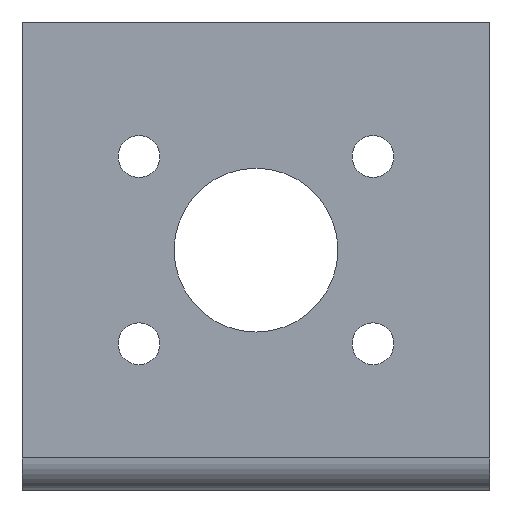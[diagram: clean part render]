
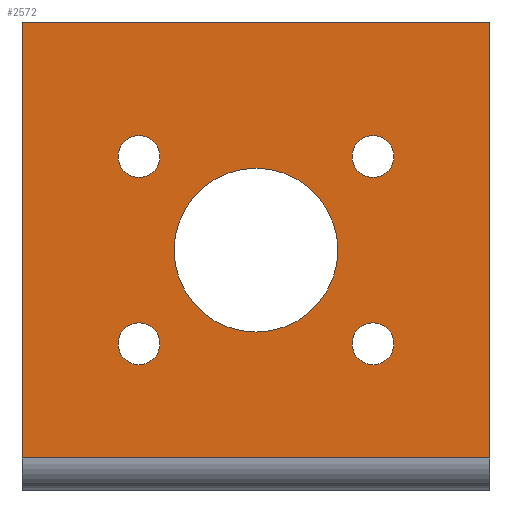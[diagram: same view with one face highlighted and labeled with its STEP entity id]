
A CAD part, front view. The second image highlights one B-rep face of the part: STEP entity #2572.
In plain terms, the highlighted planar face has unit normal (0, -1, 0).
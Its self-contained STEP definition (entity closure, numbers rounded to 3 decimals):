
#2 = DIRECTION ( 'NONE',  ( 1., 0., 0. ) ) ;
#17 = CARTESIAN_POINT ( 'NONE',  ( 10., 35.999, 10.501 ) ) ;
#36 = LINE ( 'NONE', #912, #1492 ) ;
#79 = ORIENTED_EDGE ( 'NONE', *, *, #2986, .F. ) ;
#117 = CARTESIAN_POINT ( 'NONE',  ( 20., 35.999, 18.501 ) ) ;
#123 = EDGE_CURVE ( 'NONE', #2737, #783, #2710, .T. ) ;
#174 = DIRECTION ( 'NONE',  ( 1., 0., 0. ) ) ;
#226 = CARTESIAN_POINT ( 'NONE',  ( 30., 35.999, 10.501 ) ) ;
#231 = FACE_OUTER_BOUND ( 'NONE', #1547, .T. ) ;
#267 = VERTEX_POINT ( 'NONE', #1032 ) ;
#320 = AXIS2_PLACEMENT_3D ( 'NONE', #117, #2817, #635 ) ;
#352 = CIRCLE ( 'NONE', #885, 1.79 ) ;
#356 = EDGE_LOOP ( 'NONE', ( #2172, #3072 ) ) ;
#365 = DIRECTION ( 'NONE',  ( 0., 1., 0. ) ) ;
#377 = LINE ( 'NONE', #2331, #2406 ) ;
#398 = DIRECTION ( 'NONE',  ( 0., 1., 0. ) ) ;
#406 = EDGE_CURVE ( 'NONE', #2322, #1561, #831, .T. ) ;
#419 = CARTESIAN_POINT ( 'NONE',  ( 0., 35.999, 38.001 ) ) ;
#423 = ORIENTED_EDGE ( 'NONE', *, *, #2438, .T. ) ;
#433 = AXIS2_PLACEMENT_3D ( 'NONE', #2328, #1620, #879 ) ;
#445 = CARTESIAN_POINT ( 'NONE',  ( 40., 35.999, 0.737 ) ) ;
#489 = CIRCLE ( 'NONE', #542, 1.79 ) ;
#510 = DIRECTION ( 'NONE',  ( 1., 0., 0. ) ) ;
#537 = CIRCLE ( 'NONE', #1835, 1.79 ) ;
#542 = AXIS2_PLACEMENT_3D ( 'NONE', #226, #2195, #1198 ) ;
#556 = VERTEX_POINT ( 'NONE', #657 ) ;
#582 = CARTESIAN_POINT ( 'NONE',  ( 30., 35.999, 10.501 ) ) ;
#621 = CARTESIAN_POINT ( 'NONE',  ( 11.79, 35.999, 26.501 ) ) ;
#627 = EDGE_CURVE ( 'NONE', #2207, #556, #489, .T. ) ;
#633 = CIRCLE ( 'NONE', #1159, 1.79 ) ;
#635 = DIRECTION ( 'NONE',  ( 1., 0., 0. ) ) ;
#649 = ORIENTED_EDGE ( 'NONE', *, *, #1904, .T. ) ;
#657 = CARTESIAN_POINT ( 'NONE',  ( 31.79, 35.999, 10.501 ) ) ;
#665 = ORIENTED_EDGE ( 'NONE', *, *, #729, .T. ) ;
#668 = AXIS2_PLACEMENT_3D ( 'NONE', #17, #1735, #510 ) ;
#710 = DIRECTION ( 'NONE',  ( 0., -1., 0. ) ) ;
#719 = ORIENTED_EDGE ( 'NONE', *, *, #2006, .F. ) ;
#729 = EDGE_CURVE ( 'NONE', #2781, #1465, #2472, .T. ) ;
#760 = EDGE_LOOP ( 'NONE', ( #2067, #1976 ) ) ;
#783 = VERTEX_POINT ( 'NONE', #2137 ) ;
#795 = VECTOR ( 'NONE', #821, 1000. ) ;
#821 = DIRECTION ( 'NONE',  ( 1., 0., 0. ) ) ;
#831 = CIRCLE ( 'NONE', #320, 7. ) ;
#840 = DIRECTION ( 'NONE',  ( 0., 0., -1. ) ) ;
#852 = VERTEX_POINT ( 'NONE', #2888 ) ;
#863 = EDGE_LOOP ( 'NONE', ( #1808, #649 ) ) ;
#879 = DIRECTION ( 'NONE',  ( 1., 0., 0. ) ) ;
#885 = AXIS2_PLACEMENT_3D ( 'NONE', #582, #365, #2306 ) ;
#912 = CARTESIAN_POINT ( 'NONE',  ( 0., 35.999, 0.737 ) ) ;
#933 = CARTESIAN_POINT ( 'NONE',  ( 8.21, 35.999, 26.501 ) ) ;
#1026 = VECTOR ( 'NONE', #2130, 1000. ) ;
#1032 = CARTESIAN_POINT ( 'NONE',  ( 8.21, 35.999, 10.501 ) ) ;
#1044 = AXIS2_PLACEMENT_3D ( 'NONE', #2949, #710, #2675 ) ;
#1054 = DIRECTION ( 'NONE',  ( 0., 1., 0. ) ) ;
#1069 = CARTESIAN_POINT ( 'NONE',  ( 0., 35.999, 38.001 ) ) ;
#1147 = VERTEX_POINT ( 'NONE', #2707 ) ;
#1159 = AXIS2_PLACEMENT_3D ( 'NONE', #1350, #1807, #2770 ) ;
#1198 = DIRECTION ( 'NONE',  ( 1., 0., 0. ) ) ;
#1220 = PLANE ( 'NONE',  #1044 ) ;
#1306 = CIRCLE ( 'NONE', #1780, 7. ) ;
#1331 = EDGE_CURVE ( 'NONE', #1943, #2212, #1666, .T. ) ;
#1350 = CARTESIAN_POINT ( 'NONE',  ( 10., 35.999, 10.501 ) ) ;
#1385 = ORIENTED_EDGE ( 'NONE', *, *, #123, .F. ) ;
#1444 = CIRCLE ( 'NONE', #1676, 1.79 ) ;
#1465 = VERTEX_POINT ( 'NONE', #3061 ) ;
#1492 = VECTOR ( 'NONE', #174, 1000. ) ;
#1510 = DIRECTION ( 'NONE',  ( 0., 1., 0. ) ) ;
#1539 = CARTESIAN_POINT ( 'NONE',  ( 0., 35.999, 38.001 ) ) ;
#1547 = EDGE_LOOP ( 'NONE', ( #79, #2591, #719, #1385 ) ) ;
#1561 = VERTEX_POINT ( 'NONE', #3125 ) ;
#1581 = EDGE_CURVE ( 'NONE', #2212, #1943, #1444, .T. ) ;
#1609 = FACE_BOUND ( 'NONE', #2706, .T. ) ;
#1620 = DIRECTION ( 'NONE',  ( 0., 1., 0. ) ) ;
#1654 = AXIS2_PLACEMENT_3D ( 'NONE', #1856, #398, #2151 ) ;
#1666 = CIRCLE ( 'NONE', #433, 1.79 ) ;
#1676 = AXIS2_PLACEMENT_3D ( 'NONE', #1726, #1980, #2 ) ;
#1713 = CARTESIAN_POINT ( 'NONE',  ( 27., 35.999, 18.501 ) ) ;
#1722 = EDGE_CURVE ( 'NONE', #1147, #267, #2370, .T. ) ;
#1726 = CARTESIAN_POINT ( 'NONE',  ( 10., 35.999, 26.501 ) ) ;
#1728 = DIRECTION ( 'NONE',  ( 1., 0., 0. ) ) ;
#1735 = DIRECTION ( 'NONE',  ( 0., 1., 0. ) ) ;
#1780 = AXIS2_PLACEMENT_3D ( 'NONE', #2198, #1510, #1728 ) ;
#1807 = DIRECTION ( 'NONE',  ( 0., 1., 0. ) ) ;
#1808 = ORIENTED_EDGE ( 'NONE', *, *, #1722, .T. ) ;
#1835 = AXIS2_PLACEMENT_3D ( 'NONE', #2278, #1054, #2767 ) ;
#1856 = CARTESIAN_POINT ( 'NONE',  ( 30., 35.999, 26.501 ) ) ;
#1898 = ORIENTED_EDGE ( 'NONE', *, *, #2234, .T. ) ;
#1904 = EDGE_CURVE ( 'NONE', #267, #1147, #633, .T. ) ;
#1943 = VERTEX_POINT ( 'NONE', #621 ) ;
#1951 = CARTESIAN_POINT ( 'NONE',  ( 28.21, 35.999, 10.501 ) ) ;
#1976 = ORIENTED_EDGE ( 'NONE', *, *, #627, .T. ) ;
#1980 = DIRECTION ( 'NONE',  ( 0., 1., 0. ) ) ;
#2006 = EDGE_CURVE ( 'NONE', #783, #2140, #377, .T. ) ;
#2067 = ORIENTED_EDGE ( 'NONE', *, *, #2782, .T. ) ;
#2072 = LINE ( 'NONE', #419, #1026 ) ;
#2130 = DIRECTION ( 'NONE',  ( 0., 0., 1. ) ) ;
#2137 = CARTESIAN_POINT ( 'NONE',  ( 40., 35.999, 38.001 ) ) ;
#2140 = VERTEX_POINT ( 'NONE', #445 ) ;
#2151 = DIRECTION ( 'NONE',  ( 1., 0., 0. ) ) ;
#2172 = ORIENTED_EDGE ( 'NONE', *, *, #1331, .T. ) ;
#2195 = DIRECTION ( 'NONE',  ( 0., 1., 0. ) ) ;
#2198 = CARTESIAN_POINT ( 'NONE',  ( 20., 35.999, 18.501 ) ) ;
#2207 = VERTEX_POINT ( 'NONE', #1951 ) ;
#2212 = VERTEX_POINT ( 'NONE', #933 ) ;
#2234 = EDGE_CURVE ( 'NONE', #1561, #2322, #1306, .T. ) ;
#2278 = CARTESIAN_POINT ( 'NONE',  ( 30., 35.999, 26.501 ) ) ;
#2306 = DIRECTION ( 'NONE',  ( 1., 0., 0. ) ) ;
#2322 = VERTEX_POINT ( 'NONE', #1713 ) ;
#2328 = CARTESIAN_POINT ( 'NONE',  ( 10., 35.999, 26.501 ) ) ;
#2331 = CARTESIAN_POINT ( 'NONE',  ( 40., 35.999, 38.001 ) ) ;
#2370 = CIRCLE ( 'NONE', #668, 1.79 ) ;
#2406 = VECTOR ( 'NONE', #840, 1000. ) ;
#2420 = FACE_BOUND ( 'NONE', #2969, .T. ) ;
#2438 = EDGE_CURVE ( 'NONE', #1465, #2781, #537, .T. ) ;
#2472 = CIRCLE ( 'NONE', #1654, 1.79 ) ;
#2572 = ADVANCED_FACE ( 'NONE', ( #2909, #2874, #2420, #1609, #2722, #231 ), #1220, .T. ) ;
#2574 = CARTESIAN_POINT ( 'NONE',  ( 31.79, 35.999, 26.501 ) ) ;
#2591 = ORIENTED_EDGE ( 'NONE', *, *, #3028, .T. ) ;
#2675 = DIRECTION ( 'NONE',  ( -1., 0., 0. ) ) ;
#2706 = EDGE_LOOP ( 'NONE', ( #2850, #1898 ) ) ;
#2707 = CARTESIAN_POINT ( 'NONE',  ( 11.79, 35.999, 10.501 ) ) ;
#2710 = LINE ( 'NONE', #1069, #795 ) ;
#2722 = FACE_BOUND ( 'NONE', #356, .T. ) ;
#2737 = VERTEX_POINT ( 'NONE', #1539 ) ;
#2767 = DIRECTION ( 'NONE',  ( 1., 0., 0. ) ) ;
#2770 = DIRECTION ( 'NONE',  ( 1., 0., 0. ) ) ;
#2781 = VERTEX_POINT ( 'NONE', #2574 ) ;
#2782 = EDGE_CURVE ( 'NONE', #556, #2207, #352, .T. ) ;
#2817 = DIRECTION ( 'NONE',  ( 0., 1., 0. ) ) ;
#2850 = ORIENTED_EDGE ( 'NONE', *, *, #406, .T. ) ;
#2874 = FACE_BOUND ( 'NONE', #760, .T. ) ;
#2888 = CARTESIAN_POINT ( 'NONE',  ( 0., 35.999, 0.737 ) ) ;
#2909 = FACE_BOUND ( 'NONE', #863, .T. ) ;
#2949 = CARTESIAN_POINT ( 'NONE',  ( 0., 35.999, 38.001 ) ) ;
#2969 = EDGE_LOOP ( 'NONE', ( #665, #423 ) ) ;
#2986 = EDGE_CURVE ( 'NONE', #852, #2737, #2072, .T. ) ;
#3028 = EDGE_CURVE ( 'NONE', #852, #2140, #36, .T. ) ;
#3061 = CARTESIAN_POINT ( 'NONE',  ( 28.21, 35.999, 26.501 ) ) ;
#3072 = ORIENTED_EDGE ( 'NONE', *, *, #1581, .T. ) ;
#3125 = CARTESIAN_POINT ( 'NONE',  ( 13., 35.999, 18.501 ) ) ;
